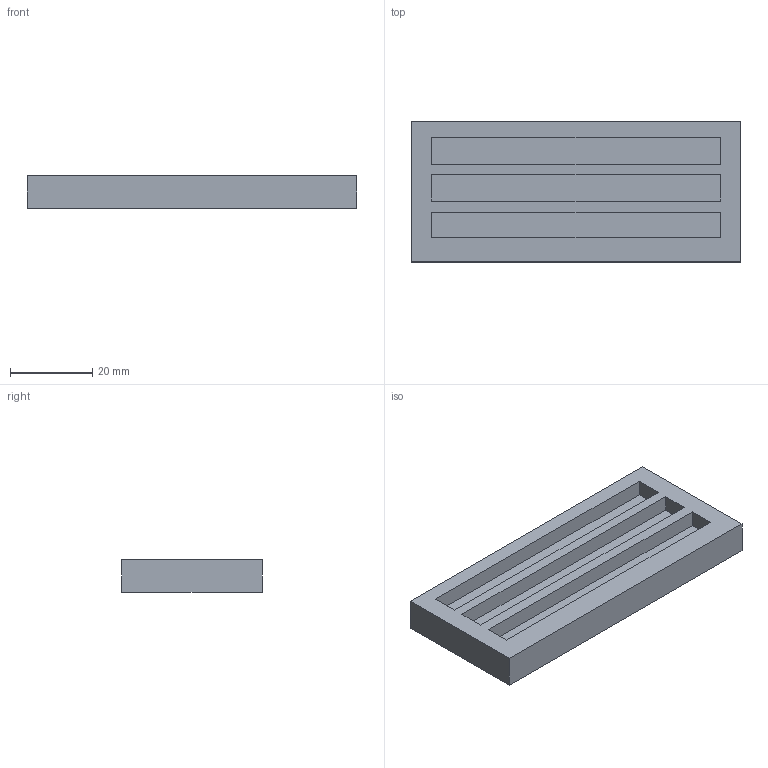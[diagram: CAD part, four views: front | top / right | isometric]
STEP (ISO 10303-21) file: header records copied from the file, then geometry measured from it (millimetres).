
FILE_DESCRIPTION(('Open CASCADE Model'),'2;1');
FILE_NAME('CP-SLIDER-BASE','2026-11-15T22:30:29',('Author'),( 'Open CASCADE'),'Open CASCADE STEP processor 8.0','build123d', 'Unknown');
FILE_SCHEMA(('AUTOMOTIVE_DESIGN { 1 0 10303 214 1 1 1 1 }'));
Length unit declared in the file: millimetre
Products named in the file (1): CP-SLIDER-BASE
Bounding box: 80 x 34 x 8 mm (x, y, z)
Volume: 16370.6 mm3; surface area: 9102.2 mm2
Topology: 1 solids, 1 shells, 21 faces, 48 edges, 32 vertices
Faces by surface type: plane 21
Entity records: 1192 total; most frequent: CARTESIAN_POINT 222, DIRECTION 164, LINE 120, VECTOR 120, ORIENTED_EDGE 96, PCURVE 96, DEFINITIONAL_REPRESENTATION 96, EDGE_CURVE 48
